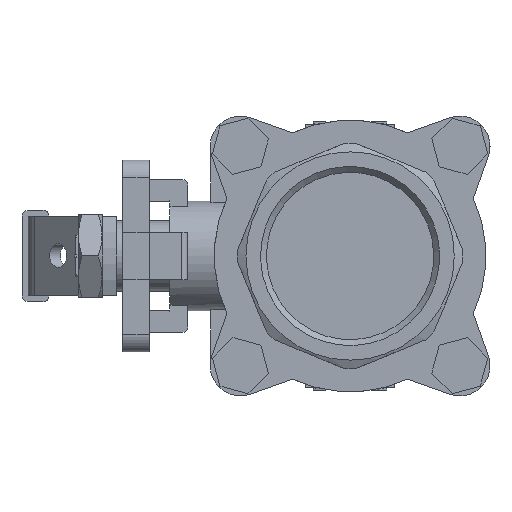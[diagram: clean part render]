
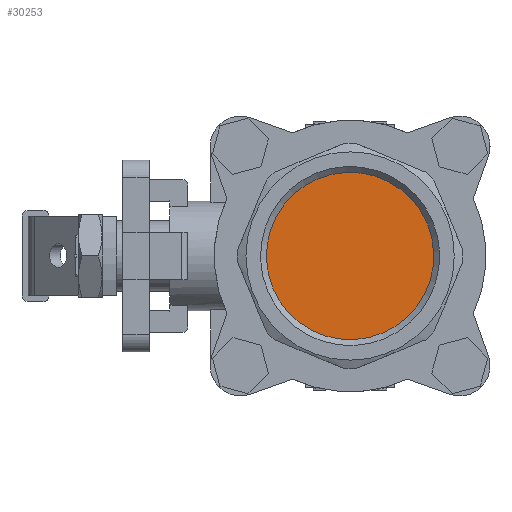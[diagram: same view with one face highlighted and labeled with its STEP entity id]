
A CAD part, left-side view. The second image highlights one B-rep face of the part: STEP entity #30253.
In plain terms, the highlighted planar face has unit normal (-1, 0, 0).
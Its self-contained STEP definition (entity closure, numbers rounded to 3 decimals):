
#28863=CARTESIAN_POINT('',(-46.0,10.841,26.172));
#28864=VERTEX_POINT('',#28863);
#28865=CARTESIAN_POINT('',(-46.0,0.,0.));
#28866=DIRECTION('',(-1.0,0.0,0.0));
#28867=DIRECTION('',(0.0,0.383,0.924));
#28868=AXIS2_PLACEMENT_3D('',#28865,#28866,#28867);
#28869=CIRCLE('',#28868,28.328);
#28870=EDGE_CURVE('',#28864,#28864,#28869,.T.);
#30245=CARTESIAN_POINT('',(-46.0,0.,0.));
#30246=DIRECTION('',(-1.0,0.0,0.0));
#30247=DIRECTION('',(0.0,0.383,0.924));
#30248=AXIS2_PLACEMENT_3D('',#30245,#30246,#30247);
#30249=PLANE('',#30248);
#30250=ORIENTED_EDGE('',*,*,#28870,.T.);
#30251=EDGE_LOOP('',(#30250));
#30252=FACE_OUTER_BOUND('',#30251,.T.);
#30253=ADVANCED_FACE('',(#30252),#30249,.T.);
